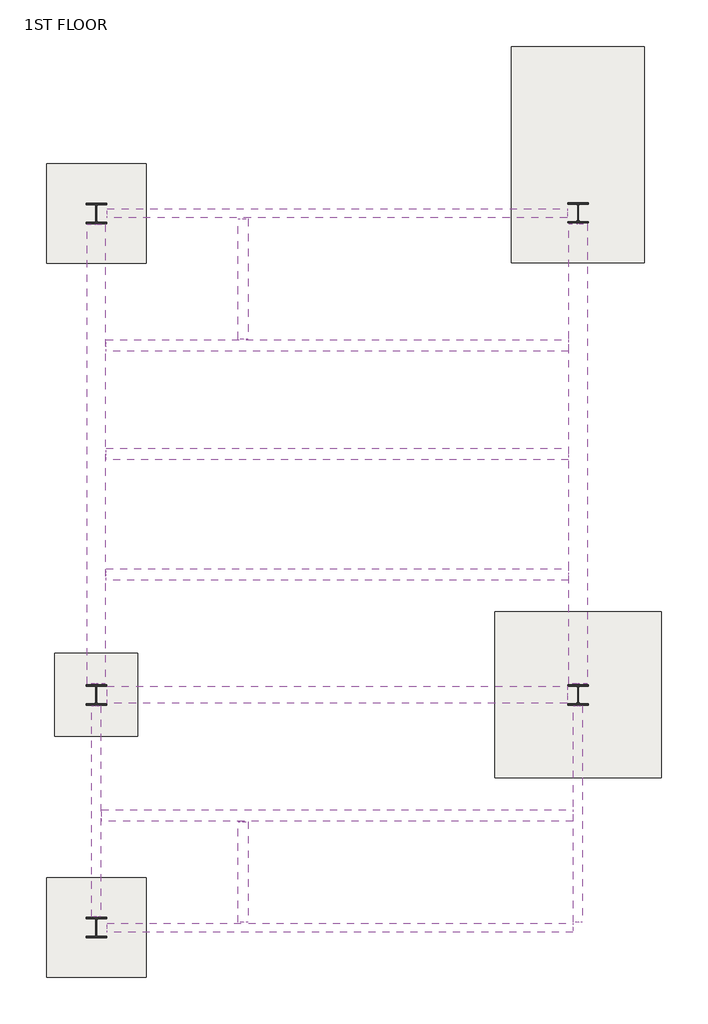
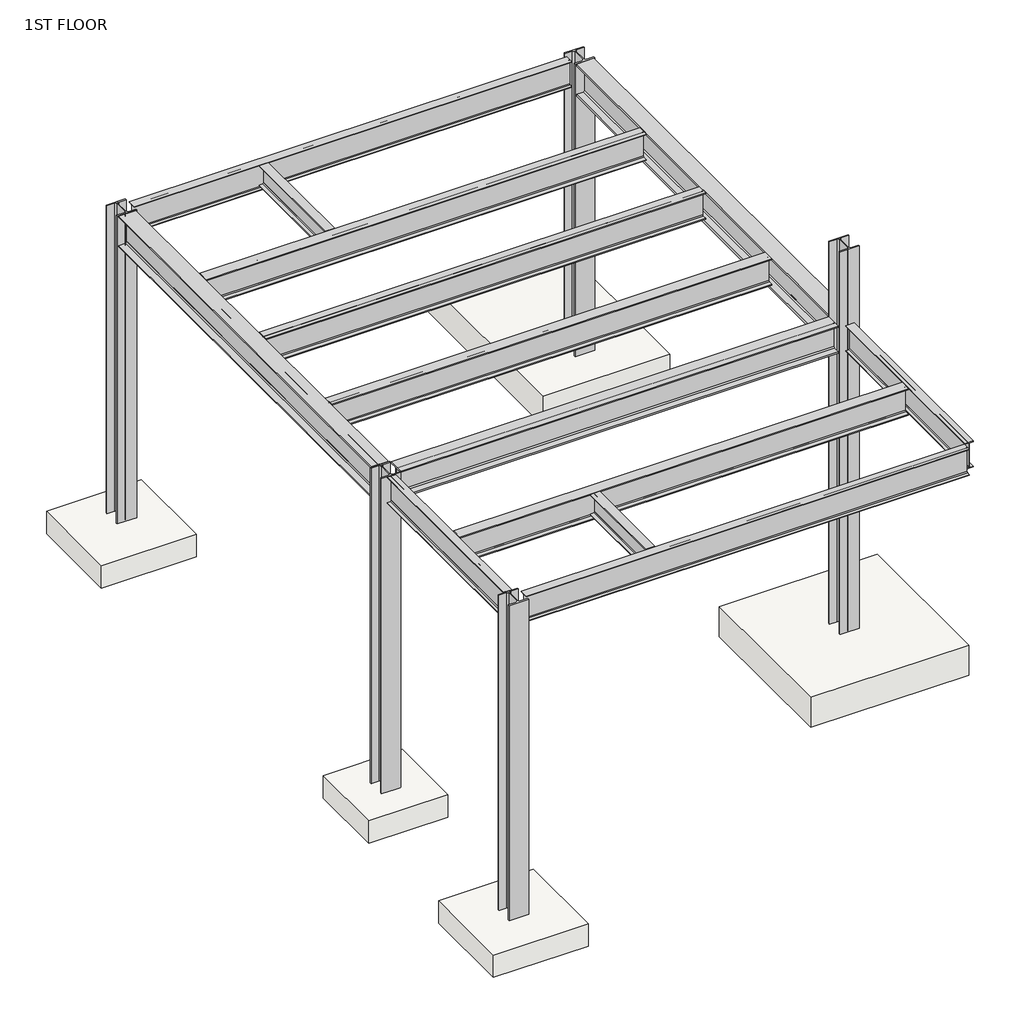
# One storey: 13 beams, 5 columns, 5 slabs.
"""IFC4 building model written with IfcOpenShell, lengths in millimetres."""

from ifc_helpers import new_model, si_unit, frame, origin, place, context, project, spatial, polyline, outline, extrude, transform, mapped, element, save
from components import w_wide_flange_w16x50_2f8f61bc, w_wide_flange_w16x50_f430b839, w_wide_flange_w21x111_51b1a384, w_wide_flange_w21x44_feb090a0, w_wide_flange_w21x44_b9bda158, w_wide_flange_w21x44_85607f17, w_wide_flange_w21x44_87bcda2b, w_wide_flange_w21x73_23efea6e, w_wide_flange_w21x73_6fdf119d, w_wide_flange_w24x131_18549e9f, w_wide_flange_w24x229_264a0a21, w_wide_flange_column_w14x132_97c2514c, w_wide_flange_column_w14x132_1d26bb89, w_wide_flange_column_w14x132_b8660559, w_wide_flange_column_w14x132_17457bbd, footing_rectangular_1b3ddeb7, slab_5ce8dbd1

model = new_model("IFC4")

# Units and contexts
model_context = context("Model", 3, world=origin())
ifc_project = project(units=[si_unit("LENGTHUNIT", "METRE", prefix="MILLI")], contexts=[model_context])

# Site, building, storey
site = spatial("IfcSite", under=ifc_project)
building = spatial("IfcBuilding", under=site)
storey = spatial("IfcBuildingStorey", under=building, Name="1ST FLOOR", Elevation=0.0)

# Beams
placement = place(None, origin())
w_wide_flange_w16x50_shape = w_wide_flange_w16x50_2f8f61bc(model_context)
element("IfcBeam", 1, ObjectType="W-Wide Flange : W16X50", at=placement, inside=storey, context=model_context, shape_type="MappedRepresentation", body=[
    mapped(w_wide_flange_w16x50_shape, transform((2997.2, 53333.4130758, 5761.99), x_axis=(0.0, 1.0, 0.0), y_axis=(-1.0, 0.0, 0.0), z_axis=(0.0, 0.0, 1.0))),
])
w_wide_flange_w16x50_2_shape = w_wide_flange_w16x50_f430b839(model_context)
element("IfcBeam", 2, ObjectType="W-Wide Flange : W16X50", at=placement, inside=storey, context=model_context, shape_type="MappedRepresentation", body=[
    mapped(w_wide_flange_w16x50_2_shape, transform((2997.2, 42480.044654, 5761.99), x_axis=(0.0, -1.0, 0.0), y_axis=(1.0, 0.0, 0.0), z_axis=(0.0, 0.0, 1.0))),
])
w_wide_flange_w21x111_shape = w_wide_flange_w21x111_51b1a384(model_context)
element("IfcBeam", 3, ObjectType="W-Wide Flange : W21X111", at=placement, inside=storey, context=model_context, shape_type="MappedRepresentation", body=[
    mapped(w_wide_flange_w21x111_shape, transform((4724.4, 45720.0, 5695.95), x_axis=(-1.0, 0.0, 0.0), y_axis=(0.0, -1.0, 0.0), z_axis=(0.0, 0.0, 1.0))),
])
w_wide_flange_w21x44_shape = w_wide_flange_w21x44_feb090a0(model_context)
element("IfcBeam", 4, ObjectType="W-Wide Flange : W21X44", at=placement, inside=storey, context=model_context, shape_type="MappedRepresentation", body=[
    mapped(w_wide_flange_w21x44_shape, transform((4724.4, 54546.0261516, 5706.11), x_axis=(1.0, 0.0, 0.0), y_axis=(0.0, 1.0, 0.0), z_axis=(0.0, 0.0, 1.0))),
])
w_wide_flange_w21x44_2_shape = w_wide_flange_w21x44_b9bda158(model_context)
element("IfcBeam", 5, ObjectType="W-Wide Flange : W21X44", at=placement, inside=storey, context=model_context, shape_type="MappedRepresentation", body=[
    mapped(w_wide_flange_w21x44_2_shape, transform((304.8, 43584.944654, 5706.11), x_axis=(0.0, -1.0, 0.0), y_axis=(1.0, 0.0, 0.0), z_axis=(0.0, 0.0, 1.0))),
])
w_wide_flange_w21x44_3_shape = w_wide_flange_w21x44_85607f17(model_context)
element("IfcBeam", 6, ObjectType="W-Wide Flange : W21X44", at=placement, inside=storey, context=model_context, shape_type="MappedRepresentation", body=[
    mapped(w_wide_flange_w21x44_3_shape, transform((9144.0, 43584.944654, 5706.11), x_axis=(0.0, 1.0, 0.0), y_axis=(-1.0, 0.0, 0.0), z_axis=(0.0, 0.0, 1.0))),
])
w_wide_flange_w21x44_4_shape = w_wide_flange_w21x44_87bcda2b(model_context)
element("IfcBeam", 7, ObjectType="W-Wide Flange : W21X44", at=placement, inside=storey, context=model_context, shape_type="MappedRepresentation", body=[
    mapped(w_wide_flange_w21x44_4_shape, transform((4724.4, 41449.889308, 5706.11), x_axis=(1.0, 0.0, 0.0), y_axis=(0.0, 1.0, 0.0), z_axis=(0.0, 0.0, 1.0))),
])
w_wide_flange_w21x73_shape = w_wide_flange_w21x73_23efea6e(model_context)
element("IfcBeam", 8, ObjectType="W-Wide Flange : W21X73", at=placement, inside=storey, context=model_context, shape_type="MappedRepresentation", body=[
    mapped(w_wide_flange_w21x73_shape, transform((4724.4, 43510.2, 5699.76), x_axis=(-1.0, 0.0, 0.0), y_axis=(0.0, -1.0, 0.0), z_axis=(0.0, 0.0, 1.0))),
])
w_wide_flange_w21x73_2_shape = w_wide_flange_w21x73_6fdf119d(model_context)
element("IfcBeam", 9, ObjectType="W-Wide Flange : W21X73", at=placement, inside=storey, context=model_context, shape_type="MappedRepresentation", body=[
    mapped(w_wide_flange_w21x73_2_shape, transform((4724.4, 52120.8, 5699.76), x_axis=(1.0, 0.0, 0.0), y_axis=(0.0, 1.0, 0.0), z_axis=(0.0, 0.0, 1.0))),
])
element("IfcBeam", 10, ObjectType="W-Wide Flange : W21X73", at=placement, inside=storey, context=model_context, shape_type="MappedRepresentation", body=[
    mapped(w_wide_flange_w21x73_2_shape, transform((4724.4, 50139.6, 5699.76), x_axis=(1.0, 0.0, 0.0), y_axis=(0.0, 1.0, 0.0), z_axis=(0.0, 0.0, 1.0))),
])
element("IfcBeam", 11, ObjectType="W-Wide Flange : W21X73", at=placement, inside=storey, context=model_context, shape_type="MappedRepresentation", body=[
    mapped(w_wide_flange_w21x73_2_shape, transform((4724.4, 47929.8, 5699.76), x_axis=(1.0, 0.0, 0.0), y_axis=(0.0, 1.0, 0.0), z_axis=(0.0, 0.0, 1.0))),
])
w_wide_flange_w24x131_shape = w_wide_flange_w24x131_18549e9f(model_context)
element("IfcBeam", 12, ObjectType="W-Wide Flange : W24X131", at=placement, inside=storey, context=model_context, shape_type="MappedRepresentation", body=[
    mapped(w_wide_flange_w24x131_shape, transform((304.8, 50133.0130758, 5657.85), x_axis=(0.0, -1.0, 0.0), y_axis=(1.0, 0.0, 0.0), z_axis=(0.0, 0.0, 1.0))),
])
w_wide_flange_w24x229_shape = w_wide_flange_w24x229_264a0a21(model_context)
element("IfcBeam", 13, ObjectType="W-Wide Flange : W24X229", at=placement, inside=storey, context=model_context, shape_type="MappedRepresentation", body=[
    mapped(w_wide_flange_w24x229_shape, transform((9144.0, 50139.6, 5638.8), x_axis=(0.0, 1.0, 0.0), y_axis=(-1.0, 0.0, 0.0), z_axis=(0.0, 0.0, 1.0))),
])

# Columns
w_wide_flange_column_w14x132_shape = w_wide_flange_column_w14x132_97c2514c(model_context)
element("IfcColumn", 14, ObjectType="W-Wide Flange-Column : W14X132", at=placement, inside=storey, context=model_context, shape_type="MappedRepresentation", body=[
    mapped(w_wide_flange_column_w14x132_shape, transform((9144.0, 45720.0, 0.0), x_axis=(1.0, 0.0, 0.0), y_axis=(0.0, 1.0, 0.0), z_axis=(0.0, 0.0, 1.0))),
])
w_wide_flange_column_w14x132_2_shape = w_wide_flange_column_w14x132_1d26bb89(model_context)
element("IfcColumn", 15, ObjectType="W-Wide Flange-Column : W14X132", at=placement, inside=storey, context=model_context, shape_type="MappedRepresentation", body=[
    mapped(w_wide_flange_column_w14x132_2_shape, transform((304.8, 54546.0261516, 0.0), x_axis=(1.0, 0.0, 0.0), y_axis=(0.0, 1.0, 0.0), z_axis=(0.0, 0.0, 1.0))),
])
w_wide_flange_column_w14x132_3_shape = w_wide_flange_column_w14x132_b8660559(model_context)
element("IfcColumn", 16, ObjectType="W-Wide Flange-Column : W14X132", at=placement, inside=storey, context=model_context, shape_type="MappedRepresentation", body=[
    mapped(w_wide_flange_column_w14x132_3_shape, transform((304.8, 41453.064308, 0.0), x_axis=(1.0, 0.0, 0.0), y_axis=(0.0, 1.0, 0.0), z_axis=(0.0, 0.0, 1.0))),
])
element("IfcColumn", 17, ObjectType="W-Wide Flange-Column : W14X132", at=placement, inside=storey, context=model_context, shape_type="MappedRepresentation", body=[
    mapped(w_wide_flange_column_w14x132_3_shape, transform((304.8, 45720.0, 0.0), x_axis=(1.0, 0.0, 0.0), y_axis=(0.0, 1.0, 0.0), z_axis=(0.0, 0.0, 1.0))),
])
w_wide_flange_column_w14x132_4_shape = w_wide_flange_column_w14x132_17457bbd(model_context)
element("IfcColumn", 18, ObjectType="W-Wide Flange-Column : W14X132", at=placement, inside=storey, context=model_context, shape_type="MappedRepresentation", body=[
    mapped(w_wide_flange_column_w14x132_4_shape, transform((9144.0, 54559.2, 0.0), x_axis=(1.0, 0.0, 0.0), y_axis=(0.0, 1.0, 0.0), z_axis=(0.0, 0.0, 1.0))),
])

# Slabs
element("IfcSlab", 19, ObjectType="Footing-Rectangular : 6'-0\" x 6''-0\"", at=placement, inside=storey, context=model_context, shape_type="SweptSolid", body=[
    extrude(outline(polyline([(-609.6000003, 53631.6261513), (-609.6000003, 55460.4261513), (1219.1999997, 55460.4261513), (1219.1999997, 53631.6261513), (-609.6000003, 53631.6261513)])), frame((0.0, 0.0, -914.4), z_axis=(0.0, 0.0, 1.0), x_axis=(1.0, 0.0, 0.0)), (0.0, 0.0, 1.0), 457.2),
])
element("IfcSlab", 20, ObjectType="Footing-Rectangular : 6'-0\" x 6''-0\"", at=placement, inside=storey, context=model_context, shape_type="SweptSolid", body=[
    extrude(outline(polyline([(-609.6, 42367.2), (1219.2, 42367.2), (1219.2, 40538.4), (-609.6, 40538.4), (-609.6, 42367.2)])), frame((0.0, 0.0, -914.4), z_axis=(0.0, 0.0, 1.0), x_axis=(1.0, 0.0, 0.0)), (0.0, 0.0, 1.0), 457.2),
])
footing_rectangular_shape = footing_rectangular_1b3ddeb7(model_context)
element("IfcSlab", 21, ObjectType="Footing-Rectangular : 8''-0\" x 13'-0\"", at=placement, inside=storey, context=model_context, shape_type="MappedRepresentation", body=[
    mapped(footing_rectangular_shape, transform((9144.0, 55626.0, 0.0), x_axis=(1.0, 0.0, 0.0), y_axis=(0.0, 1.0, 0.0), z_axis=(0.0, 0.0, 1.0))),
])
slab_shape = slab_5ce8dbd1(model_context)
element("IfcSlab", 22, ObjectType="Footing-Rectangular : 10-0' x 10'-0\"", at=placement, inside=storey, context=model_context, shape_type="MappedRepresentation", body=[
    mapped(slab_shape, transform((9144.0, 45720.0, -304.8), x_axis=(-1.0, 0.0, 0.0), y_axis=(0.0, -1.0, 0.0), z_axis=(0.0, 0.0, 1.0))),
])
element("IfcSlab", 23, ObjectType="Footing-Rectangular : 5'-0\" x 5'-0\"", at=placement, inside=storey, context=model_context, shape_type="SweptSolid", body=[
    extrude(outline(polyline([(-457.2, 46482.0), (1066.8, 46482.0), (1066.8, 44958.0), (-457.2, 44958.0), (-457.2, 46482.0)])), frame((0.0, 0.0, -914.4), z_axis=(0.0, 0.0, 1.0), x_axis=(1.0, 0.0, 0.0)), (0.0, 0.0, 1.0), 457.2),
])

save(model, "model.ifc")
